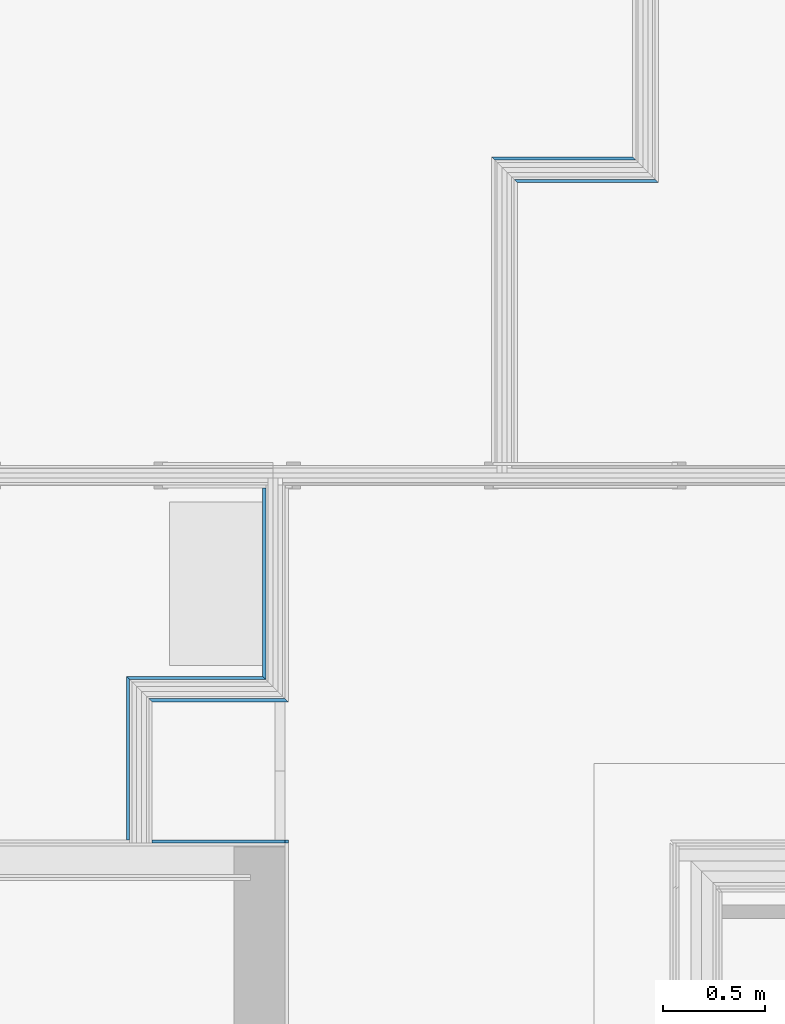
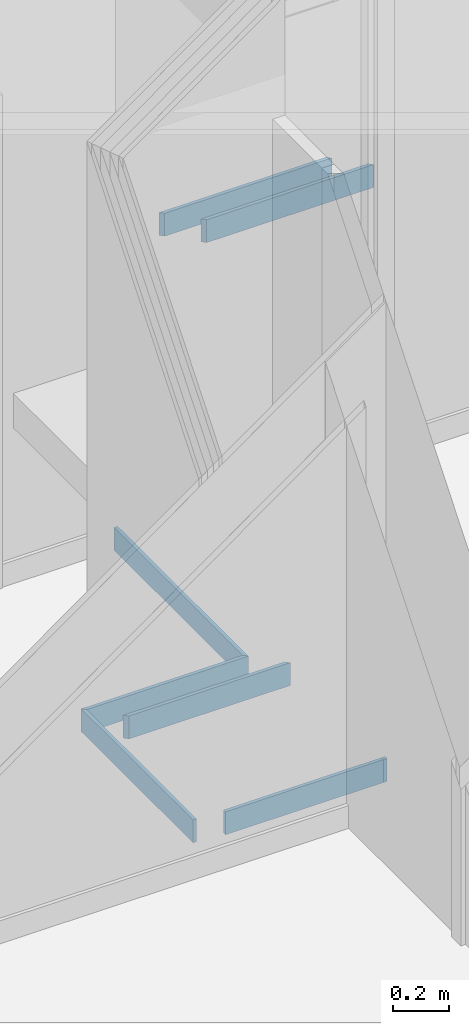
# One storey, part 41 of 65: 8 building element parts, 5 elements without a shape of their own.
"""IFC2X3 building model written with IfcOpenShell, lengths in metres."""

from ifc_helpers import new_model, entity, si_unit, converted_unit, derived_unit, money_unit, direction, frame, frame_2d, origin_with_axes, place, context, subcontext, project, spatial, polyline, rectangle, outline, extrude, material, type_object, element, aggregate, save


model = new_model("IFC2X3")

# Units and contexts
model_context = context("Model", 3, precision=1e-05, world=origin_with_axes(), true_north=direction((0.0, 1.0)))
body_context = subcontext(model_context, "Body", "Model", "MODEL_VIEW", scale=1.0)
ifc_project = project(units=[si_unit("LENGTHUNIT", "METRE"), si_unit("AREAUNIT", "SQUARE_METRE"), si_unit("VOLUMEUNIT", "CUBIC_METRE"), si_unit("ABSORBEDDOSEUNIT", "GRAY"), si_unit("AMOUNTOFSUBSTANCEUNIT", "MOLE"), si_unit("DOSEEQUIVALENTUNIT", "SIEVERT"), si_unit("ELECTRICCAPACITANCEUNIT", "FARAD"), si_unit("ELECTRICCHARGEUNIT", "COULOMB"), si_unit("ELECTRICCONDUCTANCEUNIT", "SIEMENS"), si_unit("ELECTRICCURRENTUNIT", "AMPERE"), si_unit("ELECTRICRESISTANCEUNIT", "OHM"), si_unit("ELECTRICVOLTAGEUNIT", "VOLT"), si_unit("ENERGYUNIT", "JOULE"), si_unit("FORCEUNIT", "NEWTON"), si_unit("FREQUENCYUNIT", "HERTZ"), si_unit("ILLUMINANCEUNIT", "LUX"), si_unit("INDUCTANCEUNIT", "HENRY"), si_unit("LUMINOUSFLUXUNIT", "LUMEN"), si_unit("LUMINOUSINTENSITYUNIT", "CANDELA"), si_unit("MAGNETICFLUXDENSITYUNIT", "TESLA"), si_unit("MAGNETICFLUXUNIT", "WEBER"), si_unit("MASSUNIT", "GRAM"), converted_unit("PLANEANGLEUNIT", "degree", entity("IfcReal", 0.0174532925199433), si_unit("PLANEANGLEUNIT", "RADIAN"), dimensions=[0, 0, 0, 0, 0, 0, 0]), si_unit("POWERUNIT", "WATT"), si_unit("PRESSUREUNIT", "PASCAL"), si_unit("RADIOACTIVITYUNIT", "BECQUEREL"), si_unit("SOLIDANGLEUNIT", "STERADIAN"), si_unit("THERMODYNAMICTEMPERATUREUNIT", "KELVIN"), si_unit("TIMEUNIT", "SECOND"), derived_unit("ACCELERATIONUNIT", [(si_unit("LENGTHUNIT", "METRE"), 1), (si_unit("TIMEUNIT", "SECOND"), -2)]), derived_unit("ANGULARVELOCITYUNIT", [(converted_unit("PLANEANGLEUNIT", "degree", entity("IfcReal", 0.0174532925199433), si_unit("PLANEANGLEUNIT", "RADIAN"), dimensions=[0, 0, 0, 0, 0, 0, 0]), 1), (si_unit("TIMEUNIT", "SECOND"), -1)]), derived_unit("CURVATUREUNIT", [(converted_unit("PLANEANGLEUNIT", "degree", entity("IfcReal", 0.0174532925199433), si_unit("PLANEANGLEUNIT", "RADIAN"), dimensions=[0, 0, 0, 0, 0, 0, 0]), 1), (si_unit("LENGTHUNIT", "METRE"), -1)]), derived_unit("DYNAMICVISCOSITYUNIT", [(si_unit("PRESSUREUNIT", "PASCAL"), 1), (si_unit("TIMEUNIT", "SECOND"), 1)]), derived_unit("HEATFLUXDENSITYUNIT", [(si_unit("POWERUNIT", "WATT"), 1), (si_unit("LENGTHUNIT", "METRE"), -2)]), derived_unit("HEATINGVALUEUNIT", [(si_unit("ENERGYUNIT", "JOULE"), 1), (si_unit("MASSUNIT", "GRAM"), -1)]), derived_unit("INTEGERCOUNTRATEUNIT", [(si_unit("TIMEUNIT", "SECOND"), -1)]), derived_unit("IONCONCENTRATIONUNIT", [(si_unit("MASSUNIT", "GRAM"), 1), (si_unit("VOLUMEUNIT", "CUBIC_METRE"), -1)]), derived_unit("ISOTHERMALMOISTURECAPACITYUNIT", [(si_unit("VOLUMEUNIT", "CUBIC_METRE"), 1), (si_unit("MASSUNIT", "GRAM"), -1)]), derived_unit("KINEMATICVISCOSITYUNIT", [(si_unit("AREAUNIT", "SQUARE_METRE"), 1), (si_unit("TIMEUNIT", "SECOND"), -1)]), derived_unit("LINEARFORCEUNIT", [(si_unit("FORCEUNIT", "NEWTON"), 1), (si_unit("LENGTHUNIT", "METRE"), -1)]), derived_unit("LINEARMOMENTUNIT", [(si_unit("FORCEUNIT", "NEWTON"), 1), (si_unit("LENGTHUNIT", "METRE"), -1)]), derived_unit("LINEARSTIFFNESSUNIT", [(si_unit("FORCEUNIT", "NEWTON"), 1), (si_unit("LENGTHUNIT", "METRE"), -1)]), derived_unit("LINEARVELOCITYUNIT", [(si_unit("LENGTHUNIT", "METRE"), 1), (si_unit("TIMEUNIT", "SECOND"), -1)]), derived_unit("LUMINOUSINTENSITYDISTRIBUTIONUNIT", [(si_unit("LUMINOUSINTENSITYUNIT", "CANDELA"), 1), (si_unit("LUMINOUSFLUXUNIT", "LUMEN"), -1)]), derived_unit("MASSDENSITYUNIT", [(si_unit("MASSUNIT", "GRAM"), 1), (si_unit("VOLUMEUNIT", "CUBIC_METRE"), -1)]), derived_unit("MASSFLOWRATEUNIT", [(si_unit("MASSUNIT", "GRAM"), 1), (si_unit("TIMEUNIT", "SECOND"), -1)]), derived_unit("MASSPERLENGTHUNIT", [(si_unit("MASSUNIT", "GRAM"), 1), (si_unit("LENGTHUNIT", "METRE"), -1)]), derived_unit("MODULUSOFELASTICITYUNIT", [(si_unit("FORCEUNIT", "NEWTON"), 1), (si_unit("AREAUNIT", "SQUARE_METRE"), -1)]), derived_unit("MODULUSOFLINEARSUBGRADEREACTIONUNIT", [(si_unit("FORCEUNIT", "NEWTON"), 1), (si_unit("LENGTHUNIT", "METRE"), -2)]), derived_unit("MODULUSOFROTATIONALSUBGRADEREACTIONUNIT", [(si_unit("FORCEUNIT", "NEWTON"), 1), (si_unit("LENGTHUNIT", "METRE"), 1)]), derived_unit("MODULUSOFSUBGRADEREACTIONUNIT", [(si_unit("FORCEUNIT", "NEWTON"), 1), (si_unit("VOLUMEUNIT", "CUBIC_METRE"), -1)]), derived_unit("MOISTUREDIFFUSIVITYUNIT", [(si_unit("VOLUMEUNIT", "CUBIC_METRE"), 1), (si_unit("TIMEUNIT", "SECOND"), -1)]), derived_unit("MOLECULARWEIGHTUNIT", [(si_unit("MASSUNIT", "GRAM"), 1), (si_unit("AMOUNTOFSUBSTANCEUNIT", "MOLE"), -1)]), derived_unit("PLANARFORCEUNIT", [(si_unit("FORCEUNIT", "NEWTON"), 1), (si_unit("LENGTHUNIT", "METRE"), -2)]), derived_unit("ROTATIONALFREQUENCYUNIT", [(si_unit("TIMEUNIT", "SECOND"), -1)]), derived_unit("ROTATIONALMASSUNIT", [(si_unit("MASSUNIT", "GRAM"), 1), (si_unit("LENGTHUNIT", "METRE"), 2)]), derived_unit("ROTATIONALSTIFFNESSUNIT", [(si_unit("FORCEUNIT", "NEWTON"), 1), (si_unit("LENGTHUNIT", "METRE"), 1), (converted_unit("PLANEANGLEUNIT", "degree", entity("IfcReal", 0.0174532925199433), si_unit("PLANEANGLEUNIT", "RADIAN"), dimensions=[0, 0, 0, 0, 0, 0, 0]), -1)]), derived_unit("SECTIONAREAINTEGRALUNIT", [(si_unit("LENGTHUNIT", "METRE"), 5)]), derived_unit("SECTIONMODULUSUNIT", [(si_unit("LENGTHUNIT", "METRE"), 3)]), derived_unit("SHEARMODULUSUNIT", [(si_unit("FORCEUNIT", "NEWTON"), 1), (si_unit("AREAUNIT", "SQUARE_METRE"), -1)]), derived_unit("SOUNDPOWERUNIT", [(si_unit("ENERGYUNIT", "JOULE"), 1), (si_unit("TIMEUNIT", "SECOND"), -1)]), derived_unit("SPECIFICHEATCAPACITYUNIT", [(si_unit("FORCEUNIT", "NEWTON"), 1), (si_unit("MASSUNIT", "GRAM"), -1), (si_unit("THERMODYNAMICTEMPERATUREUNIT", "KELVIN"), -1)]), derived_unit("TEMPERATUREGRADIENTUNIT", [(si_unit("THERMODYNAMICTEMPERATUREUNIT", "KELVIN"), 1), (si_unit("LENGTHUNIT", "METRE"), -1)]), derived_unit("THERMALADMITTANCEUNIT", [(si_unit("POWERUNIT", "WATT"), 1), (si_unit("AREAUNIT", "SQUARE_METRE"), -1), (si_unit("THERMODYNAMICTEMPERATUREUNIT", "KELVIN"), -1)]), derived_unit("THERMALCONDUCTANCEUNIT", [(si_unit("POWERUNIT", "WATT"), 1), (si_unit("LENGTHUNIT", "METRE"), -1), (si_unit("THERMODYNAMICTEMPERATUREUNIT", "KELVIN"), -1)]), derived_unit("THERMALEXPANSIONCOEFFICIENTUNIT", [(si_unit("THERMODYNAMICTEMPERATUREUNIT", "KELVIN"), -1)]), derived_unit("THERMALRESISTANCEUNIT", [(si_unit("AREAUNIT", "SQUARE_METRE"), 1), (si_unit("POWERUNIT", "WATT"), -1)]), derived_unit("THERMALTRANSMITTANCEUNIT", [(si_unit("POWERUNIT", "WATT"), 1), (si_unit("AREAUNIT", "SQUARE_METRE"), -1), (si_unit("THERMODYNAMICTEMPERATUREUNIT", "KELVIN"), -1)]), derived_unit("TORQUEUNIT", [(si_unit("FORCEUNIT", "NEWTON"), 1), (si_unit("LENGTHUNIT", "METRE"), 1)]), derived_unit("VAPORPERMEABILITYUNIT", [(si_unit("MASSUNIT", "GRAM"), 1), (si_unit("TIMEUNIT", "SECOND"), -1)]), derived_unit("VOLUMETRICFLOWRATEUNIT", [(si_unit("VOLUMEUNIT", "CUBIC_METRE"), 1), (si_unit("TIMEUNIT", "SECOND"), -1)]), derived_unit("WARPINGCONSTANTUNIT", [(si_unit("LENGTHUNIT", "METRE"), 6)]), derived_unit("WARPINGMOMENTUNIT", [(si_unit("FORCEUNIT", "NEWTON"), 1), (si_unit("LENGTHUNIT", "METRE"), 2)]), money_unit("GBP")], contexts=[model_context])

# Site, building, storey
site_placement = place(None, origin_with_axes())
site = spatial("IfcSite", under=ifc_project, at=site_placement, Name="Site", CompositionType="ELEMENT")
building_placement = place(site_placement, origin_with_axes())
building = spatial("IfcBuilding", under=site, at=building_placement, Name="Building01", CompositionType="ELEMENT")
storey_placement = place(building_placement, frame((0.0, 0.0, 8.64), z_axis=(0.0, 0.0, 1.0), x_axis=(1.0, 0.0, 0.0)))
storey = spatial("IfcBuildingStorey", under=building, at=storey_placement, Name="2F", CompositionType="ELEMENT", Elevation=8.64)

# Wall, building element parts
wall_type_1 = type_object("IfcWallType", Name="SHE_A-Walls_Type05a_Partition_95mm_tall", PredefinedType="NOTDEFINED")
wall_1_placement = place(storey_placement, frame((19.085284, 12.099378, 0.0), z_axis=(0.0, 0.0, 1.0), x_axis=(1.0, 0.0, 0.0)))
wall_1 = element("IfcWall", 1, at=wall_1_placement, inside=storey, type_object=wall_type_1, Name="5A", ObjectType="SHE_A-Walls_Type05a_Partition_95mm_tall")
ifc_material = material(Name="A_BSUK_Walls_Timber")
placement_1 = place(wall_1_placement, origin_with_axes())
building_element_part_1 = element("IfcBuildingElementPart", 2, at=placement_1, material=ifc_material, Name="1", context=body_context, shape_type="SweptSolid", body=[
    extrude(outline(polyline([(0.724716, -0.035), (0.035, -0.035), (0.05, -0.05), (0.739716, -0.05), (0.724716, -0.035)])), frame((0.0, 0.0, 0.015), z_axis=(0.0, 0.0, 1.0), x_axis=(1.0, 0.0, 0.0)), (0.0, 0.0, 1.0), 0.1),
])
building_element_part_2 = element("IfcBuildingElementPart", 3, at=placement_1, material=ifc_material, Name="7", context=body_context, shape_type="SweptSolid", body=[
    extrude(outline(polyline([(0.614716, 0.075), (-0.075, 0.075), (-0.06, 0.06), (0.629716, 0.06), (0.614716, 0.075)])), frame((0.0, 0.0, 0.015), z_axis=(0.0, 0.0, 1.0), x_axis=(1.0, 0.0, 0.0)), (0.0, 0.0, 1.0), 0.1),
])
aggregate(wall_1, [building_element_part_1, building_element_part_2])

# Wall, building element part
wall_2_placement = place(storey_placement, frame((17.273132, 8.82, 0.0), z_axis=(0.0, 0.0, 1.0), x_axis=(0.0, 1.0, 0.0)))
wall_2 = element("IfcWall", 4, at=wall_2_placement, inside=storey, type_object=wall_type_1, Name="5A", ObjectType="SHE_A-Walls_Type05a_Partition_95mm_tall")
building_element_part_3_placement = place(wall_2_placement, origin_with_axes())
building_element_part_3 = element("IfcBuildingElementPart", 5, at=building_element_part_3_placement, material=ifc_material, Name="7", context=body_context, shape_type="SweptSolid", body=[
    extrude(outline(polyline([(0.815, 0.05), (0.015, 0.05), (0.015, 0.035), (0.8, 0.035), (0.815, 0.05)])), frame((0.0, 0.0, 0.015), z_axis=(0.0, 0.0, 1.0), x_axis=(1.0, 0.0, 0.0)), (0.0, 0.0, 1.0), 0.1),
])
aggregate(wall_2, [building_element_part_3])

# Wall, building element parts
wall_3_placement = place(storey_placement, frame((17.273132, 9.585, 0.0), z_axis=(0.0, 0.0, 1.0), x_axis=(1.0, 0.0, 0.0)))
wall_3 = element("IfcWall", 6, at=wall_3_placement, inside=storey, type_object=wall_type_1, Name="5A", ObjectType="SHE_A-Walls_Type05a_Partition_95mm_tall")
placement_2 = place(wall_3_placement, origin_with_axes())
building_element_part_4 = element("IfcBuildingElementPart", 7, at=placement_2, material=ifc_material, Name="1", context=body_context, shape_type="SweptSolid", body=[
    extrude(outline(polyline([(0.726868, -0.06), (0.06, -0.06), (0.075, -0.075), (0.741868, -0.075), (0.726868, -0.06)])), frame((0.0, 0.0, 0.015), z_axis=(0.0, 0.0, 1.0), x_axis=(1.0, 0.0, 0.0)), (0.0, 0.0, 1.0), 0.1),
])
building_element_part_5 = element("IfcBuildingElementPart", 8, at=placement_2, material=ifc_material, Name="7", context=body_context, shape_type="SweptSolid", body=[
    extrude(outline(polyline([(0.616868, 0.05), (-0.05, 0.05), (-0.035, 0.035), (0.631868, 0.035), (0.616868, 0.05)])), frame((0.0, 0.0, 0.015), z_axis=(0.0, 0.0, 1.0), x_axis=(1.0, 0.0, 0.0)), (0.0, 0.0, 1.0), 0.1),
])
aggregate(wall_3, [building_element_part_4, building_element_part_5])

# Wall, building element part
wall_4_placement = place(storey_placement, frame((17.94, 9.585, 0.0), z_axis=(0.0, 0.0, 1.0), x_axis=(0.0, 1.0, 0.0)))
wall_4 = element("IfcWall", 9, at=wall_4_placement, inside=storey, type_object=wall_type_1, Name="5A", ObjectType="SHE_A-Walls_Type05a_Partition_95mm_tall")
building_element_part_6_placement = place(wall_4_placement, origin_with_axes())
building_element_part_6 = element("IfcBuildingElementPart", 10, at=building_element_part_6_placement, material=ifc_material, Name="7", context=body_context, shape_type="SweptSolid", body=[
    extrude(outline(polyline([(0.97, 0.05), (0.05, 0.05), (0.035, 0.035), (0.97, 0.035), (0.97, 0.05)])), frame((0.0, 0.0, 0.015), z_axis=(0.0, 0.0, 1.0), x_axis=(1.0, 0.0, 0.0)), (0.0, 0.0, 1.0), 0.1),
])
aggregate(wall_4, [building_element_part_6])

# Wall, building element parts
wall_type_2 = type_object("IfcWallType", Name="SHE_A-Walls_Type03a_BlockworkWall_170mm", PredefinedType="NOTDEFINED")
wall_5_placement = place(storey_placement, frame((17.75, 8.805, 0.0), z_axis=(0.0, 0.0, 1.0), x_axis=(-1.0, 0.0, 0.0)))
wall_5 = element("IfcWall", 11, at=wall_5_placement, inside=storey, type_object=wall_type_2, Name="4B", ObjectType="SHE_A-Walls_Type03a_BlockworkWall_170mm")
placement_3 = place(wall_5_placement, origin_with_axes())
building_element_part_7 = element("IfcBuildingElementPart", 12, at=placement_3, material=ifc_material, Name="1", context=body_context, shape_type="SweptSolid", body=[
    extrude(rectangle(XDim=0.015, YDim=0.015, at=frame_2d((-0.2575, -0.0225), x_axis=(-1.0, 0.0))), frame((0.0, 0.0, 0.015), z_axis=(0.0, 0.0, 1.0), x_axis=(1.0, 0.0, 0.0)), (0.0, 0.0, 1.0), 0.1),
])
building_element_part_8 = element("IfcBuildingElementPart", 13, at=placement_3, material=ifc_material, Name="3", context=body_context, shape_type="SweptSolid", body=[
    extrude(rectangle(XDim=0.651868, YDim=0.015, at=frame_2d((0.075934, -0.0225), x_axis=(-1.0, 0.0))), frame((0.0, 0.0, 0.015), z_axis=(0.0, 0.0, 1.0), x_axis=(1.0, 0.0, 0.0)), (0.0, 0.0, 1.0), 0.1),
])
aggregate(wall_5, [building_element_part_7, building_element_part_8])

save(model, "model.ifc")
